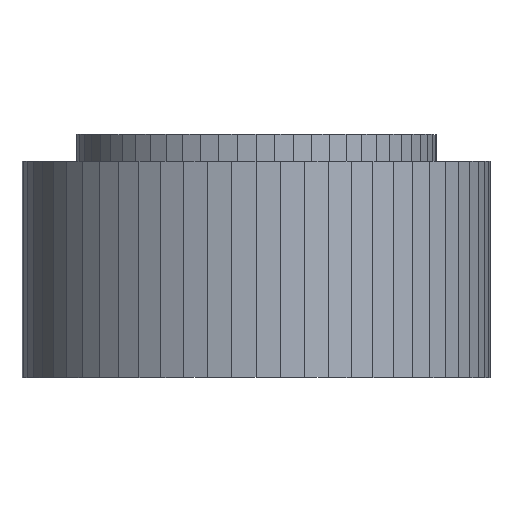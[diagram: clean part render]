
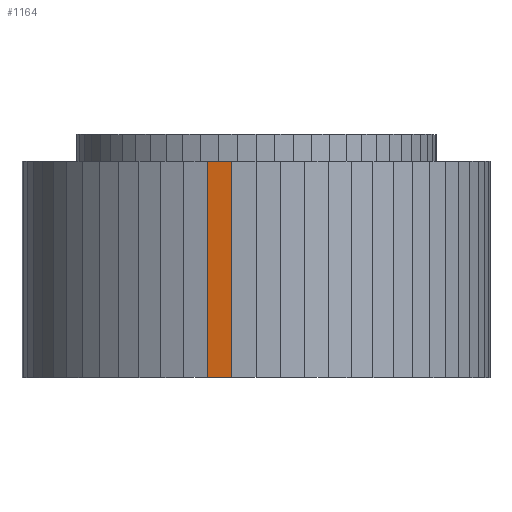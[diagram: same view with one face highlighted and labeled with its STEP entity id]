
A CAD part, front view. The second image highlights one B-rep face of the part: STEP entity #1164.
In plain terms, the highlighted planar face has unit normal (-0.157, -0.988, 0).
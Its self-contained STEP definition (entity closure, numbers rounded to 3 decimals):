
#44 = PLANE('',#45);
#45 = AXIS2_PLACEMENT_3D('',#46,#47,#48);
#46 = CARTESIAN_POINT('',(11.747,0.411,12.));
#47 = DIRECTION('',(0.,0.,1.));
#48 = DIRECTION('',(1.,0.,-0.));
#100 = PLANE('',#101);
#101 = AXIS2_PLACEMENT_3D('',#102,#103,#104);
#102 = CARTESIAN_POINT('',(12.947,0.,0.));
#103 = DIRECTION('',(-0.,-0.,-1.));
#104 = DIRECTION('',(-1.,0.,0.));
#1164 = ADVANCED_FACE('',(#1165),#1179,.T.);
#1165 = FACE_BOUND('',#1166,.T.);
#1166 = EDGE_LOOP('',(#1167,#1197,#1225,#1248));
#1167 = ORIENTED_EDGE('',*,*,#1168,.T.);
#1168 = EDGE_CURVE('',#1169,#1171,#1173,.T.);
#1169 = VERTEX_POINT('',#1170);
#1170 = CARTESIAN_POINT('',(-1.359,-12.929,12.));
#1171 = VERTEX_POINT('',#1172);
#1172 = CARTESIAN_POINT('',(-2.703,-12.716,12.));
#1173 = SURFACE_CURVE('',#1174,(#1178,#1190),.PCURVE_S1.);
#1174 = LINE('',#1175,#1176);
#1175 = CARTESIAN_POINT('',(-1.359,-12.929,12.));
#1176 = VECTOR('',#1177,1.);
#1177 = DIRECTION('',(-0.988,0.156,0.));
#1178 = PCURVE('',#1179,#1184);
#1179 = PLANE('',#1180);
#1180 = AXIS2_PLACEMENT_3D('',#1181,#1182,#1183);
#1181 = CARTESIAN_POINT('',(-2.348,-12.772,
    6.321));
#1182 = DIRECTION('',(-0.156,-0.988,-0.));
#1183 = DIRECTION('',(-0.988,0.156,0.));
#1184 = DEFINITIONAL_REPRESENTATION('',(#1185),#1189);
#1185 = LINE('',#1186,#1187);
#1186 = CARTESIAN_POINT('',(-1.001,-5.679));
#1187 = VECTOR('',#1188,1.);
#1188 = DIRECTION('',(1.,0.));
#1189 = ( GEOMETRIC_REPRESENTATION_CONTEXT(2) 
PARAMETRIC_REPRESENTATION_CONTEXT() REPRESENTATION_CONTEXT('2D SPACE',''
  ) );
#1190 = PCURVE('',#44,#1191);
#1191 = DEFINITIONAL_REPRESENTATION('',(#1192),#1196);
#1192 = LINE('',#1193,#1194);
#1193 = CARTESIAN_POINT('',(-13.106,-13.34));
#1194 = VECTOR('',#1195,1.);
#1195 = DIRECTION('',(-0.988,0.156));
#1196 = ( GEOMETRIC_REPRESENTATION_CONTEXT(2) 
PARAMETRIC_REPRESENTATION_CONTEXT() REPRESENTATION_CONTEXT('2D SPACE',''
  ) );
#1197 = ORIENTED_EDGE('',*,*,#1198,.F.);
#1198 = EDGE_CURVE('',#1199,#1171,#1201,.T.);
#1199 = VERTEX_POINT('',#1200);
#1200 = CARTESIAN_POINT('',(-2.703,-12.716,0.));
#1201 = SURFACE_CURVE('',#1202,(#1206,#1213),.PCURVE_S1.);
#1202 = LINE('',#1203,#1204);
#1203 = CARTESIAN_POINT('',(-2.703,-12.716,0.));
#1204 = VECTOR('',#1205,1.);
#1205 = DIRECTION('',(0.,0.,1.));
#1206 = PCURVE('',#1179,#1207);
#1207 = DEFINITIONAL_REPRESENTATION('',(#1208),#1212);
#1208 = LINE('',#1209,#1210);
#1209 = CARTESIAN_POINT('',(0.359,6.321));
#1210 = VECTOR('',#1211,1.);
#1211 = DIRECTION('',(0.,-1.));
#1212 = ( GEOMETRIC_REPRESENTATION_CONTEXT(2) 
PARAMETRIC_REPRESENTATION_CONTEXT() REPRESENTATION_CONTEXT('2D SPACE',''
  ) );
#1213 = PCURVE('',#1214,#1219);
#1214 = PLANE('',#1215);
#1215 = AXIS2_PLACEMENT_3D('',#1216,#1217,#1218);
#1216 = CARTESIAN_POINT('',(-3.67,-12.457,6.321
    ));
#1217 = DIRECTION('',(-0.259,-0.966,-0.));
#1218 = DIRECTION('',(-0.966,0.259,0.));
#1219 = DEFINITIONAL_REPRESENTATION('',(#1220),#1224);
#1220 = LINE('',#1221,#1222);
#1221 = CARTESIAN_POINT('',(-1.001,6.321));
#1222 = VECTOR('',#1223,1.);
#1223 = DIRECTION('',(0.,-1.));
#1224 = ( GEOMETRIC_REPRESENTATION_CONTEXT(2) 
PARAMETRIC_REPRESENTATION_CONTEXT() REPRESENTATION_CONTEXT('2D SPACE',''
  ) );
#1225 = ORIENTED_EDGE('',*,*,#1226,.T.);
#1226 = EDGE_CURVE('',#1199,#1227,#1229,.T.);
#1227 = VERTEX_POINT('',#1228);
#1228 = CARTESIAN_POINT('',(-1.359,-12.929,0.));
#1229 = SURFACE_CURVE('',#1230,(#1234,#1241),.PCURVE_S1.);
#1230 = LINE('',#1231,#1232);
#1231 = CARTESIAN_POINT('',(-2.703,-12.716,0.));
#1232 = VECTOR('',#1233,1.);
#1233 = DIRECTION('',(0.988,-0.156,0.));
#1234 = PCURVE('',#1179,#1235);
#1235 = DEFINITIONAL_REPRESENTATION('',(#1236),#1240);
#1236 = LINE('',#1237,#1238);
#1237 = CARTESIAN_POINT('',(0.359,6.321));
#1238 = VECTOR('',#1239,1.);
#1239 = DIRECTION('',(-1.,0.));
#1240 = ( GEOMETRIC_REPRESENTATION_CONTEXT(2) 
PARAMETRIC_REPRESENTATION_CONTEXT() REPRESENTATION_CONTEXT('2D SPACE',''
  ) );
#1241 = PCURVE('',#100,#1242);
#1242 = DEFINITIONAL_REPRESENTATION('',(#1243),#1247);
#1243 = LINE('',#1244,#1245);
#1244 = CARTESIAN_POINT('',(15.649,-12.716));
#1245 = VECTOR('',#1246,1.);
#1246 = DIRECTION('',(-0.988,-0.156));
#1247 = ( GEOMETRIC_REPRESENTATION_CONTEXT(2) 
PARAMETRIC_REPRESENTATION_CONTEXT() REPRESENTATION_CONTEXT('2D SPACE',''
  ) );
#1248 = ORIENTED_EDGE('',*,*,#1249,.F.);
#1249 = EDGE_CURVE('',#1169,#1227,#1250,.T.);
#1250 = SURFACE_CURVE('',#1251,(#1255,#1262),.PCURVE_S1.);
#1251 = LINE('',#1252,#1253);
#1252 = CARTESIAN_POINT('',(-1.359,-12.929,12.));
#1253 = VECTOR('',#1254,1.);
#1254 = DIRECTION('',(0.,0.,-1.));
#1255 = PCURVE('',#1179,#1256);
#1256 = DEFINITIONAL_REPRESENTATION('',(#1257),#1261);
#1257 = LINE('',#1258,#1259);
#1258 = CARTESIAN_POINT('',(-1.001,-5.679));
#1259 = VECTOR('',#1260,1.);
#1260 = DIRECTION('',(0.,1.));
#1261 = ( GEOMETRIC_REPRESENTATION_CONTEXT(2) 
PARAMETRIC_REPRESENTATION_CONTEXT() REPRESENTATION_CONTEXT('2D SPACE',''
  ) );
#1262 = PCURVE('',#1263,#1268);
#1263 = PLANE('',#1264);
#1264 = AXIS2_PLACEMENT_3D('',#1265,#1266,#1267);
#1265 = CARTESIAN_POINT('',(-1.,-12.948,
    6.321));
#1266 = DIRECTION('',(-0.052,-0.999,-0.));
#1267 = DIRECTION('',(-0.999,0.052,0.));
#1268 = DEFINITIONAL_REPRESENTATION('',(#1269),#1273);
#1269 = LINE('',#1270,#1271);
#1270 = CARTESIAN_POINT('',(0.359,-5.679));
#1271 = VECTOR('',#1272,1.);
#1272 = DIRECTION('',(0.,1.));
#1273 = ( GEOMETRIC_REPRESENTATION_CONTEXT(2) 
PARAMETRIC_REPRESENTATION_CONTEXT() REPRESENTATION_CONTEXT('2D SPACE',''
  ) );
